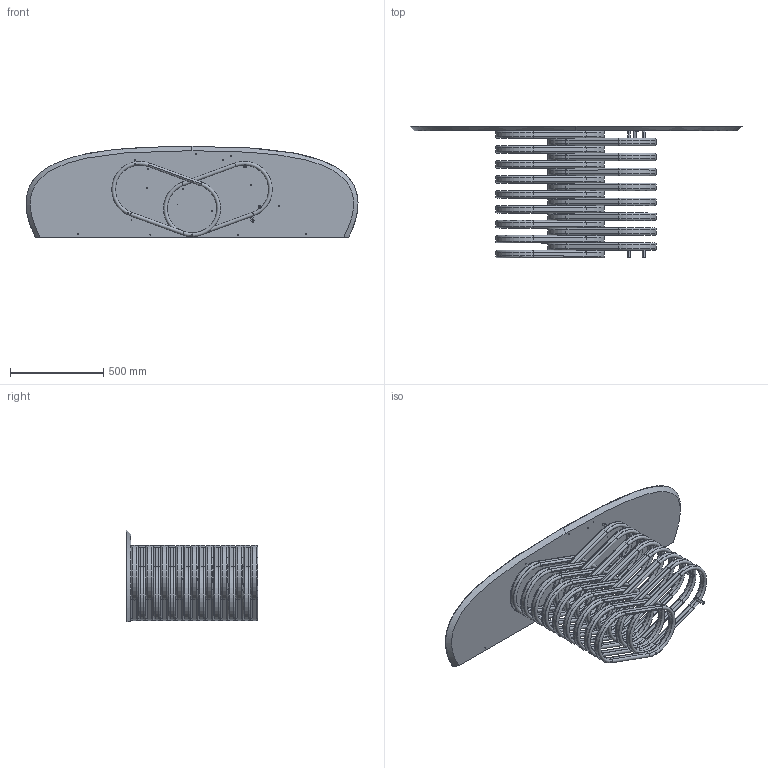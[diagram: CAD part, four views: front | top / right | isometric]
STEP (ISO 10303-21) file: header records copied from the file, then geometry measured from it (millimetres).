
FILE_DESCRIPTION (( 'STEP AP203' ), '1' );
FILE_NAME ('RO61M.STEP', '2024-08-06T10:01:23', ( '' ), ( '' ), 'SwSTEP 2.0', 'SolidWorks 2022', '' );
FILE_SCHEMA (( 'CONFIG_CONTROL_DESIGN' ));
Length unit declared in the file: millimetre
Products named in the file (10): ROC000000_01-00-anello rotolo console SOPRA_Default<A macchina>; ROC000000_03-00-anello rotolo console MEDIO_Default<A macchina>; TRUXXXX-02-NOBILITATO Sasso per console_180x50; RO61M; ROC000000_0X-00-anello rotolo console CIlindri SUP_INF_SUPERIORE; ROC000001PSx-00-CONSOLEE ROTOLO PIASTRA FISSAGGIO_STAFFA LUNGA; KXXXX-00-piani MARMO Sasso per console_180X50; ROC000000_0X-00-anello rotolo console CIlindri SUP_INF_INFERIORE<A macchina>; ROC000000_02-00-anello rotolo console SOTTO_Default<A macchina>; ROC000000-00-CONSOLLE ROTOLO BASE STRUTTURA
Assembly tree (21 placements, depth 3):
  RO61M
    KXXXX-00-piani MARMO Sasso per console_180X50
      TRUXXXX-02-NOBILITATO Sasso per console_180x50
    ROC000000-00-CONSOLLE ROTOLO BASE STRUTTURA
      ROC000000_02-00-anello rotolo console SOTTO_Default<A macchina>
      ROC000000_03-00-anello rotolo console MEDIO_Default<A macchina>  x13
      ROC000000_01-00-anello rotolo console SOPRA_Default<A macchina>
      ROC000000_0X-00-anello rotolo console CIlindri SUP_INF_INFERIORE<A macchina>
      ROC000000_0X-00-anello rotolo console CIlindri SUP_INF_SUPERIORE
    ROC000001PSx-00-CONSOLEE ROTOLO PIASTRA FISSAGGIO_STAFFA LUNGA
Bounding box: 1775.95 x 705 x 488 mm (x, y, z)
Volume: 23749447.5 mm3; surface area: 6533671.9 mm2
Topology: 74 solids, 74 shells, 865 faces, 2104 edges, 1363 vertices
Faces by surface type: cylinder 384, plane 297, torus 136, cone 44, bspline 4
Entity records: 13806 total; most frequent: CARTESIAN_POINT 3736, DIRECTION 1969, ORIENTED_EDGE 1672, EDGE_CURVE 836, AXIS2_PLACEMENT_3D 781, VERTEX_POINT 547, EDGE_LOOP 437, LINE 407
